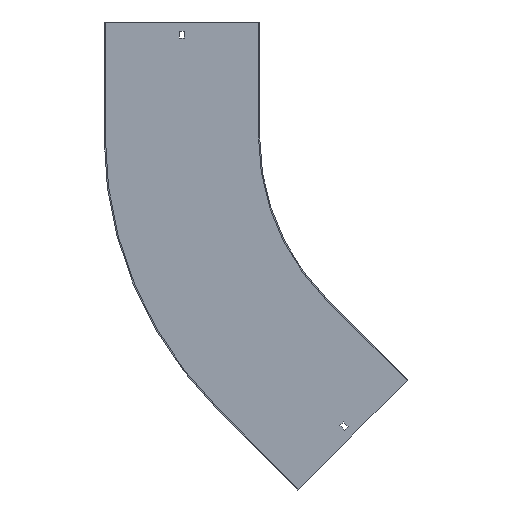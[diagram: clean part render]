
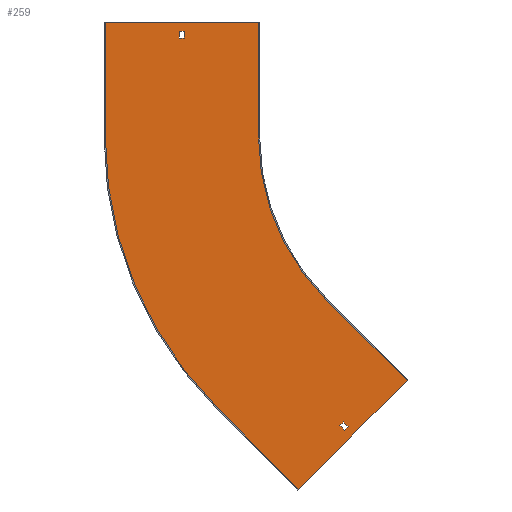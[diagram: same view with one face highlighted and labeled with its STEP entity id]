
A CAD part, front view. The second image highlights one B-rep face of the part: STEP entity #259.
In plain terms, the highlighted planar face has unit normal (0, -1, 0).
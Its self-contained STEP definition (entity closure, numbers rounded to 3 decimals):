
#10 = DIRECTION ( 'NONE',  ( 0., -1., 0. ) ) ;
#22 = DIRECTION ( 'NONE',  ( 0., 0., -1. ) ) ;
#34 = ORIENTED_EDGE ( 'NONE', *, *, #522, .F. ) ;
#37 = CARTESIAN_POINT ( 'NONE',  ( -396.75, -1.5, 129. ) ) ;
#48 = AXIS2_PLACEMENT_3D ( 'NONE', #704, #638, #572 ) ;
#52 = VERTEX_POINT ( 'NONE', #37 ) ;
#58 = ORIENTED_EDGE ( 'NONE', *, *, #133, .F. ) ;
#67 = VERTEX_POINT ( 'NONE', #352 ) ;
#70 = VECTOR ( 'NONE', #608, 1000. ) ;
#79 = FACE_OUTER_BOUND ( 'NONE', #328, .T. ) ;
#81 = DIRECTION ( 'NONE',  ( 0., -1., 0. ) ) ;
#91 = CARTESIAN_POINT ( 'NONE',  ( -187.56, -1.5, -382.722 ) ) ;
#95 = EDGE_CURVE ( 'NONE', #769, #329, #559, .T. ) ;
#101 = VERTEX_POINT ( 'NONE', #426 ) ;
#105 = LINE ( 'NONE', #573, #485 ) ;
#106 = VERTEX_POINT ( 'NONE', #845 ) ;
#112 = LINE ( 'NONE', #520, #686 ) ;
#126 = VECTOR ( 'NONE', #827, 1000. ) ;
#133 = EDGE_CURVE ( 'NONE', #208, #67, #757, .T. ) ;
#140 = EDGE_CURVE ( 'NONE', #252, #203, #186, .T. ) ;
#141 = CIRCLE ( 'NONE', #48, 500. ) ;
#150 = EDGE_CURVE ( 'NONE', #620, #106, #105, .T. ) ;
#154 = CARTESIAN_POINT ( 'NONE',  ( 0., -1.5, 0. ) ) ;
#159 = CARTESIAN_POINT ( 'NONE',  ( 0., -1.5, 138. ) ) ;
#163 = VECTOR ( 'NONE', #394, 1000. ) ;
#168 = ORIENTED_EDGE ( 'NONE', *, *, #140, .F. ) ;
#169 = VECTOR ( 'NONE', #748, 1000. ) ;
#170 = LINE ( 'NONE', #370, #126 ) ;
#173 = ORIENTED_EDGE ( 'NONE', *, *, #664, .F. ) ;
#180 = DIRECTION ( 'NONE',  ( 0., 0., -1. ) ) ;
#184 = CARTESIAN_POINT ( 'NONE',  ( -403.25, -1.5, 129. ) ) ;
#186 = LINE ( 'NONE', #445, #855 ) ;
#192 = CARTESIAN_POINT ( 'NONE',  ( -403.25, -1.5, 0. ) ) ;
#198 = EDGE_CURVE ( 'NONE', #101, #52, #471, .T. ) ;
#203 = VERTEX_POINT ( 'NONE', #318 ) ;
#208 = VERTEX_POINT ( 'NONE', #583 ) ;
#216 = VECTOR ( 'NONE', #271, 1000. ) ;
#220 = CARTESIAN_POINT ( 'NONE',  ( -501.5, -1.5, 150. ) ) ;
#242 = VECTOR ( 'NONE', #731, 1000. ) ;
#248 = EDGE_CURVE ( 'NONE', #329, #399, #598, .T. ) ;
#249 = AXIS2_PLACEMENT_3D ( 'NONE', #735, #10, #22 ) ;
#252 = VERTEX_POINT ( 'NONE', #759 ) ;
#259 = ADVANCED_FACE ( 'NONE', ( #831, #79, #335 ), #350, .T. ) ;
#271 = DIRECTION ( 'NONE',  ( 0., 0., 1. ) ) ;
#280 = EDGE_CURVE ( 'NONE', #106, #208, #341, .T. ) ;
#293 = EDGE_CURVE ( 'NONE', #52, #391, #673, .T. ) ;
#299 = CARTESIAN_POINT ( 'NONE',  ( -193.924, -1.5, -376.358 ) ) ;
#306 = CIRCLE ( 'NONE', #575, 300. ) ;
#318 = CARTESIAN_POINT ( 'NONE',  ( -247.487, -1.5, -459.619 ) ) ;
#324 = DIRECTION ( 'NONE',  ( -1., 0., 0. ) ) ;
#328 = EDGE_LOOP ( 'NONE', ( #428, #784, #726, #670, #168, #781, #173, #58 ) ) ;
#329 = VERTEX_POINT ( 'NONE', #765 ) ;
#332 = CARTESIAN_POINT ( 'NONE',  ( -285.141, -1.5, -285.141 ) ) ;
#335 = FACE_BOUND ( 'NONE', #529, .T. ) ;
#336 = VECTOR ( 'NONE', #540, 1000. ) ;
#341 = LINE ( 'NONE', #220, #70 ) ;
#350 = PLANE ( 'NONE',  #249 ) ;
#352 = CARTESIAN_POINT ( 'NONE',  ( -300., -1.5, 0. ) ) ;
#354 = EDGE_CURVE ( 'NONE', #203, #401, #112, .T. ) ;
#362 = ORIENTED_EDGE ( 'NONE', *, *, #446, .T. ) ;
#369 = VECTOR ( 'NONE', #324, 1000. ) ;
#370 = CARTESIAN_POINT ( 'NONE',  ( -212.132, -1.5, -212.132 ) ) ;
#378 = LINE ( 'NONE', #159, #679 ) ;
#379 = CARTESIAN_POINT ( 'NONE',  ( -212.132, -1.5, -212.132 ) ) ;
#389 = ORIENTED_EDGE ( 'NONE', *, *, #95, .F. ) ;
#391 = VERTEX_POINT ( 'NONE', #184 ) ;
#394 = DIRECTION ( 'NONE',  ( 0.707, 0., 0.707 ) ) ;
#399 = VERTEX_POINT ( 'NONE', #299 ) ;
#401 = VERTEX_POINT ( 'NONE', #703 ) ;
#403 = CARTESIAN_POINT ( 'NONE',  ( 91.217, -1.5, -91.217 ) ) ;
#408 = EDGE_CURVE ( 'NONE', #744, #252, #170, .T. ) ;
#415 = CARTESIAN_POINT ( 'NONE',  ( 0., -1.5, 129. ) ) ;
#426 = CARTESIAN_POINT ( 'NONE',  ( -396.75, -1.5, 138. ) ) ;
#428 = ORIENTED_EDGE ( 'NONE', *, *, #280, .F. ) ;
#437 = DIRECTION ( 'NONE',  ( -0.707, 0., -0.707 ) ) ;
#445 = CARTESIAN_POINT ( 'NONE',  ( -105.005, -1.5, -317.137 ) ) ;
#446 = EDGE_CURVE ( 'NONE', #578, #101, #378, .T. ) ;
#448 = DIRECTION ( 'NONE',  ( -0.707, 0., 0.707 ) ) ;
#469 = ORIENTED_EDGE ( 'NONE', *, *, #248, .F. ) ;
#471 = LINE ( 'NONE', #536, #336 ) ;
#473 = LINE ( 'NONE', #476, #163 ) ;
#476 = CARTESIAN_POINT ( 'NONE',  ( 97.581, -1.5, -97.581 ) ) ;
#485 = VECTOR ( 'NONE', #834, 1000. ) ;
#496 = CARTESIAN_POINT ( 'NONE',  ( -280.545, -1.5, -280.545 ) ) ;
#520 = CARTESIAN_POINT ( 'NONE',  ( -247.487, -1.5, -459.619 ) ) ;
#522 = EDGE_CURVE ( 'NONE', #590, #769, #473, .T. ) ;
#524 = CARTESIAN_POINT ( 'NONE',  ( -300., -1.5, 150. ) ) ;
#528 = LINE ( 'NONE', #332, #242 ) ;
#529 = EDGE_LOOP ( 'NONE', ( #362, #592, #764, #630 ) ) ;
#535 = ORIENTED_EDGE ( 'NONE', *, *, #564, .F. ) ;
#536 = CARTESIAN_POINT ( 'NONE',  ( -396.75, -1.5, 0. ) ) ;
#538 = CARTESIAN_POINT ( 'NONE',  ( -403.25, -1.5, 138. ) ) ;
#540 = DIRECTION ( 'NONE',  ( 0., 0., -1. ) ) ;
#559 = LINE ( 'NONE', #496, #169 ) ;
#564 = EDGE_CURVE ( 'NONE', #399, #590, #528, .T. ) ;
#565 = DIRECTION ( 'NONE',  ( 1., 0., 0. ) ) ;
#569 = EDGE_CURVE ( 'NONE', #391, #578, #856, .T. ) ;
#572 = DIRECTION ( 'NONE',  ( 0., 0., -1. ) ) ;
#573 = CARTESIAN_POINT ( 'NONE',  ( -500., -1.5, 0. ) ) ;
#575 = AXIS2_PLACEMENT_3D ( 'NONE', #154, #81, #669 ) ;
#578 = VERTEX_POINT ( 'NONE', #538 ) ;
#583 = CARTESIAN_POINT ( 'NONE',  ( -300., -1.5, 150. ) ) ;
#590 = VERTEX_POINT ( 'NONE', #91 ) ;
#592 = ORIENTED_EDGE ( 'NONE', *, *, #198, .T. ) ;
#598 = LINE ( 'NONE', #403, #617 ) ;
#608 = DIRECTION ( 'NONE',  ( 1., 0., 0. ) ) ;
#617 = VECTOR ( 'NONE', #681, 1000. ) ;
#620 = VERTEX_POINT ( 'NONE', #675 ) ;
#630 = ORIENTED_EDGE ( 'NONE', *, *, #569, .T. ) ;
#638 = DIRECTION ( 'NONE',  ( 0., 1., 0. ) ) ;
#664 = EDGE_CURVE ( 'NONE', #67, #744, #306, .T. ) ;
#669 = DIRECTION ( 'NONE',  ( 0., 0., -1. ) ) ;
#670 = ORIENTED_EDGE ( 'NONE', *, *, #354, .F. ) ;
#673 = LINE ( 'NONE', #415, #369 ) ;
#675 = CARTESIAN_POINT ( 'NONE',  ( -500., -1.5, 0. ) ) ;
#679 = VECTOR ( 'NONE', #565, 1000. ) ;
#681 = DIRECTION ( 'NONE',  ( -0.707, 0., -0.707 ) ) ;
#685 = EDGE_CURVE ( 'NONE', #401, #620, #141, .T. ) ;
#686 = VECTOR ( 'NONE', #448, 1000. ) ;
#688 = CARTESIAN_POINT ( 'NONE',  ( -182.964, -1.5, -378.125 ) ) ;
#692 = VECTOR ( 'NONE', #180, 1000. ) ;
#703 = CARTESIAN_POINT ( 'NONE',  ( -353.553, -1.5, -353.553 ) ) ;
#704 = CARTESIAN_POINT ( 'NONE',  ( 0., -1.5, 0. ) ) ;
#726 = ORIENTED_EDGE ( 'NONE', *, *, #685, .F. ) ;
#731 = DIRECTION ( 'NONE',  ( 0.707, 0., -0.707 ) ) ;
#735 = CARTESIAN_POINT ( 'NONE',  ( 0., -1.5, 0. ) ) ;
#744 = VERTEX_POINT ( 'NONE', #379 ) ;
#748 = DIRECTION ( 'NONE',  ( -0.707, 0., 0.707 ) ) ;
#757 = LINE ( 'NONE', #524, #692 ) ;
#759 = CARTESIAN_POINT ( 'NONE',  ( -106.066, -1.5, -318.198 ) ) ;
#764 = ORIENTED_EDGE ( 'NONE', *, *, #293, .T. ) ;
#765 = CARTESIAN_POINT ( 'NONE',  ( -189.328, -1.5, -371.761 ) ) ;
#769 = VERTEX_POINT ( 'NONE', #688 ) ;
#781 = ORIENTED_EDGE ( 'NONE', *, *, #408, .F. ) ;
#784 = ORIENTED_EDGE ( 'NONE', *, *, #150, .F. ) ;
#827 = DIRECTION ( 'NONE',  ( 0.707, 0., -0.707 ) ) ;
#831 = FACE_BOUND ( 'NONE', #847, .T. ) ;
#834 = DIRECTION ( 'NONE',  ( 0., 0., 1. ) ) ;
#845 = CARTESIAN_POINT ( 'NONE',  ( -500., -1.5, 150. ) ) ;
#847 = EDGE_LOOP ( 'NONE', ( #389, #34, #535, #469 ) ) ;
#855 = VECTOR ( 'NONE', #437, 1000. ) ;
#856 = LINE ( 'NONE', #192, #216 ) ;
